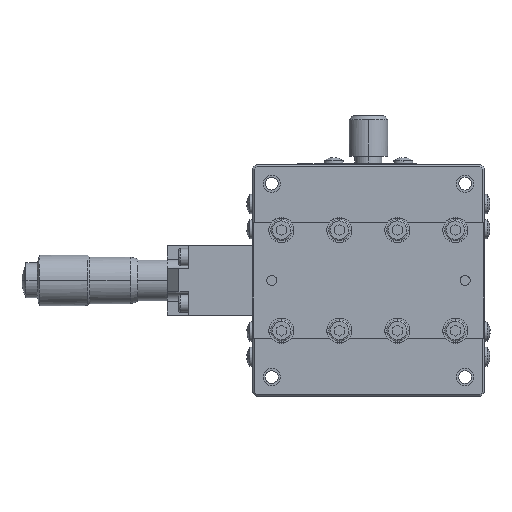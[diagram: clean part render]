
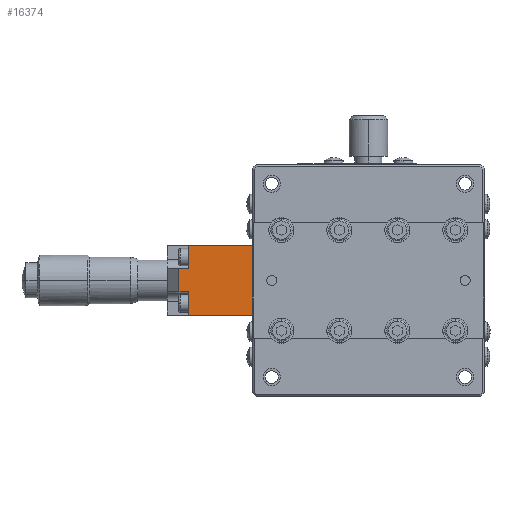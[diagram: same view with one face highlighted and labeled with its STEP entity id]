
A CAD part, front view. The second image highlights one B-rep face of the part: STEP entity #16374.
In plain terms, the highlighted planar face has unit normal (0, 1, 0).
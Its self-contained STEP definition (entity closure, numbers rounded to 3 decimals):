
#5 = LINE ( 'NONE', #15426, #1092 ) ;
#479 = CARTESIAN_POINT ( 'NONE',  ( -33.25, 8.993, -9.9 ) ) ;
#1042 = CARTESIAN_POINT ( 'NONE',  ( -52.25, 8.993, 2.1 ) ) ;
#1092 = VECTOR ( 'NONE', #13672, 1000. ) ;
#1336 = VERTEX_POINT ( 'NONE', #2256 ) ;
#1345 = ORIENTED_EDGE ( 'NONE', *, *, #13919, .T. ) ;
#1405 = LINE ( 'NONE', #20032, #10632 ) ;
#1576 = FACE_OUTER_BOUND ( 'NONE', #5306, .T. ) ;
#1960 = VERTEX_POINT ( 'NONE', #4508 ) ;
#2256 = CARTESIAN_POINT ( 'NONE',  ( -49.75, 8.993, -9.9 ) ) ;
#2259 = EDGE_CURVE ( 'NONE', #20732, #1336, #16424, .T. ) ;
#3867 = LINE ( 'NONE', #6784, #20136 ) ;
#3958 = ORIENTED_EDGE ( 'NONE', *, *, #6591, .T. ) ;
#4027 = DIRECTION ( 'NONE',  ( -1., 0., 0. ) ) ;
#4033 = EDGE_CURVE ( 'NONE', #1960, #11766, #14713, .T. ) ;
#4214 = VERTEX_POINT ( 'NONE', #8550 ) ;
#4508 = CARTESIAN_POINT ( 'NONE',  ( -49.75, 8.993, -3.9 ) ) ;
#5016 = EDGE_CURVE ( 'NONE', #1336, #1960, #1405, .T. ) ;
#5306 = EDGE_LOOP ( 'NONE', ( #20378, #9858, #8014, #7624, #3958, #1345, #8502, #10914 ) ) ;
#5876 = EDGE_CURVE ( 'NONE', #11699, #4214, #5, .T. ) ;
#6393 = VECTOR ( 'NONE', #12883, 1000. ) ;
#6591 = EDGE_CURVE ( 'NONE', #4214, #19193, #12711, .T. ) ;
#6784 = CARTESIAN_POINT ( 'NONE',  ( -52.25, 8.993, -9.9 ) ) ;
#7088 = CARTESIAN_POINT ( 'NONE',  ( -33.25, 8.993, 8.1 ) ) ;
#7624 = ORIENTED_EDGE ( 'NONE', *, *, #5876, .T. ) ;
#7797 = CARTESIAN_POINT ( 'NONE',  ( -33.25, 8.993, -9.9 ) ) ;
#8014 = ORIENTED_EDGE ( 'NONE', *, *, #15540, .T. ) ;
#8161 = AXIS2_PLACEMENT_3D ( 'NONE', #7797, #18252, #19636 ) ;
#8395 = CARTESIAN_POINT ( 'NONE',  ( -33.25, 8.993, -3.9 ) ) ;
#8405 = CARTESIAN_POINT ( 'NONE',  ( -52.25, 8.993, -3.9 ) ) ;
#8502 = ORIENTED_EDGE ( 'NONE', *, *, #19613, .T. ) ;
#8550 = CARTESIAN_POINT ( 'NONE',  ( -49.75, 8.993, 2.1 ) ) ;
#8777 = LINE ( 'NONE', #11214, #6393 ) ;
#9224 = CARTESIAN_POINT ( 'NONE',  ( -49.75, 8.993, 8.1 ) ) ;
#9565 = VECTOR ( 'NONE', #9923, 1000. ) ;
#9858 = ORIENTED_EDGE ( 'NONE', *, *, #4033, .T. ) ;
#9923 = DIRECTION ( 'NONE',  ( -1., 0., 0. ) ) ;
#10262 = DIRECTION ( 'NONE',  ( 0., 0., 1. ) ) ;
#10632 = VECTOR ( 'NONE', #12042, 1000. ) ;
#10914 = ORIENTED_EDGE ( 'NONE', *, *, #2259, .T. ) ;
#11214 = CARTESIAN_POINT ( 'NONE',  ( -33.25, 8.993, -30.9 ) ) ;
#11699 = VERTEX_POINT ( 'NONE', #1042 ) ;
#11766 = VERTEX_POINT ( 'NONE', #8405 ) ;
#12042 = DIRECTION ( 'NONE',  ( 0., 0., 1. ) ) ;
#12276 = CARTESIAN_POINT ( 'NONE',  ( -33.25, 8.993, 8.1 ) ) ;
#12711 = LINE ( 'NONE', #21365, #17351 ) ;
#12883 = DIRECTION ( 'NONE',  ( 0., 0., -1. ) ) ;
#13672 = DIRECTION ( 'NONE',  ( 1., 0., 0. ) ) ;
#13863 = CARTESIAN_POINT ( 'NONE',  ( -33.25, 8.993, -9.9 ) ) ;
#13919 = EDGE_CURVE ( 'NONE', #19193, #22307, #22351, .T. ) ;
#14713 = LINE ( 'NONE', #8395, #9565 ) ;
#15426 = CARTESIAN_POINT ( 'NONE',  ( -33.25, 8.993, 2.1 ) ) ;
#15540 = EDGE_CURVE ( 'NONE', #11766, #11699, #3867, .T. ) ;
#15774 = DIRECTION ( 'NONE',  ( 1., 0., 0. ) ) ;
#16374 = ADVANCED_FACE ( 'NONE', ( #1576 ), #19779, .T. ) ;
#16424 = LINE ( 'NONE', #13863, #18872 ) ;
#16445 = DIRECTION ( 'NONE',  ( 0., 0., 1. ) ) ;
#17351 = VECTOR ( 'NONE', #16445, 1000. ) ;
#18252 = DIRECTION ( 'NONE',  ( 0., 1., 0. ) ) ;
#18872 = VECTOR ( 'NONE', #4027, 1000. ) ;
#19193 = VERTEX_POINT ( 'NONE', #9224 ) ;
#19613 = EDGE_CURVE ( 'NONE', #22307, #20732, #8777, .T. ) ;
#19636 = DIRECTION ( 'NONE',  ( -1., 0., 0. ) ) ;
#19779 = PLANE ( 'NONE',  #8161 ) ;
#19916 = VECTOR ( 'NONE', #15774, 1000. ) ;
#20032 = CARTESIAN_POINT ( 'NONE',  ( -49.75, 8.993, -9.9 ) ) ;
#20136 = VECTOR ( 'NONE', #10262, 1000. ) ;
#20378 = ORIENTED_EDGE ( 'NONE', *, *, #5016, .T. ) ;
#20732 = VERTEX_POINT ( 'NONE', #479 ) ;
#21365 = CARTESIAN_POINT ( 'NONE',  ( -49.75, 8.993, -9.9 ) ) ;
#22307 = VERTEX_POINT ( 'NONE', #7088 ) ;
#22351 = LINE ( 'NONE', #12276, #19916 ) ;
